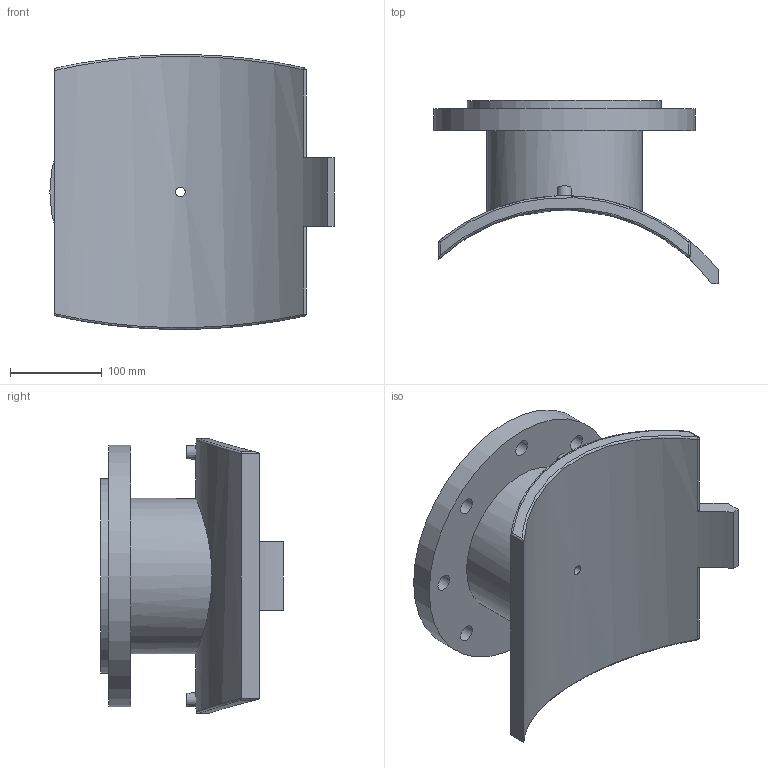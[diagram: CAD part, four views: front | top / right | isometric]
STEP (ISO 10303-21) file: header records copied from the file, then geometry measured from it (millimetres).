
FILE_DESCRIPTION(/* description */ ('PLASSON FLANGED BRANCH SADDLE 250-400X150'),/* implementation_level */ '2;1');
FILE_NAME(/* name */ 'C:\Dropbox\KIMPROJECTS-Inventor 2019\99-16-3568-Processing\ElectroFusion Fittings\495904_495903\stp\495904400150T.stp',/* time_stamp */ '2024-04-03T21:00:22+02:00',/* author */ ('KIM'),/* organization */ (''),/* preprocessor_version */ 'ST-DEVELOPER v17.2',/* originating_system */ 'Autodesk Inventor 2019',/* authorisation */ '');
FILE_SCHEMA (('AUTOMOTIVE_DESIGN { 1 0 10303 214 3 1 1 }'));
Length unit declared in the file: millimetre
Products named in the file (1): 495904400150T
Bounding box: 310.25 x 199.52 x 299.7 mm (x, y, z)
Volume: 2959536.1 mm3; surface area: 419241.4 mm2
Topology: 1 solids, 1 shells, 58 faces, 151 edges, 118 vertices
Faces by surface type: cylinder 31, plane 17, sphere 4, bspline 4, cone 2
Full cylindrical faces by diameter (mm): 4 x2, 10 x2, 10.4 x1, 16 x1, 18 x8, 150 x1, 169.6 x1, 212 x1, 285 x1
Entity records: 2442 total; most frequent: CARTESIAN_POINT 946, DIRECTION 297, ORIENTED_EDGE 274, EDGE_CURVE 137, AXIS2_PLACEMENT_3D 125, VERTEX_POINT 92, EDGE_LOOP 87, CIRCLE 70
